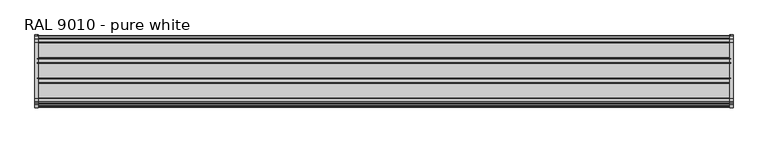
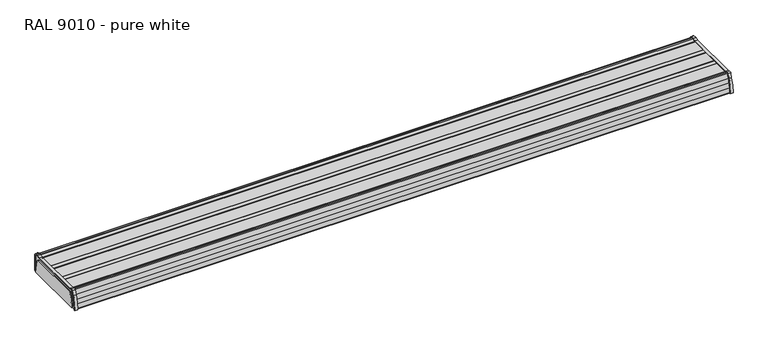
"""IFC4 building model written with IfcOpenShell, lengths in millimetres: proxy geometry, Electrical_Installations_Hager_GBD-Curved-Lid-End-Cap : RAL 9010 - pure white."""

from ifc_helpers import new_model, si_unit, point, frame, frame_2d, origin, place, context, project, spatial, polyline, circle_curve, trimmed, segment, composite_curve, outline, extrude, source, transform, mapped, element, save
from ifc_brep_helpers import plane_surface, cylinder_surface, revolved_surface, advanced_brep


def ral_9010_pure_white_7b29b7ac(model_context):
    return source(origin(), model_context, "Body", "SolidModel", [
        extrude(outline(composite_curve([segment(trimmed(circle_curve(frame_2d((-84.5513084, -40.9214047)), 185.0233507), [point((95.9838422, -0.4158535))], [point((99.9475664, -27.0))], False, "CARTESIAN"), True, "CONTINUOUS"), segment(polyline([(99.9475664, -27.0), (-90.1038164, -27.0)]), True, "CONTINUOUS"), segment(trimmed(circle_curve(frame_2d((94.3950584, -40.9214047)), 185.0233507), [point((-90.1038164, -27.0))], [point((-86.1400922, -0.4158535))], False, "CARTESIAN"), True, "CONTINUOUS"), segment(polyline([(-86.1400922, -0.4158535), (-82.3961568, 14.054883)]), True, "CONTINUOUS"), segment(trimmed(circle_curve(frame_2d((-76.8046004, 12.6082098)), 5.7756703), [point((-82.3961568, 14.054883))], [point((-76.8046004, 18.38388))], False, "CARTESIAN"), True, "CONTINUOUS"), segment(polyline([(-76.8046004, 18.38388), (87.0189184, 18.38388)]), True, "CONTINUOUS"), segment(trimmed(circle_curve(frame_2d((87.0189184, 13.0868546)), 5.2970254), [point((87.0189184, 18.38388))], [point((92.147088, 14.4136382))], False, "CARTESIAN"), True, "CONTINUOUS"), segment(polyline([(92.147088, 14.4136382), (95.9838422, -0.4158535)]), True, "CONTINUOUS")], self_intersect=False)), frame((2004.6847927, 0.0, 0.0), z_axis=(1.0, 0.0, 0.0), x_axis=(0.0, 1.0, 0.0)), (0.0, 0.0, 1.0), 1.8152073),
        extrude(outline(composite_curve([segment(trimmed(circle_curve(frame_2d((87.0189184, 13.0868546)), 5.2970254), [point((87.0189184, 18.38388))], [point((92.147088, 14.4136382))], False, "CARTESIAN"), True, "CONTINUOUS"), segment(polyline([(92.147088, 14.4136382), (95.9838422, -0.4158535)]), True, "CONTINUOUS"), segment(trimmed(circle_curve(frame_2d((-84.5513084, -40.9214047)), 185.0233507), [point((95.9838422, -0.4158535))], [point((99.9475664, -27.0))], False, "CARTESIAN"), True, "CONTINUOUS"), segment(polyline([(99.9475664, -27.0), (-90.1038164, -27.0)]), True, "CONTINUOUS"), segment(trimmed(circle_curve(frame_2d((94.3950584, -40.9214047)), 185.0233507), [point((-90.1038164, -27.0))], [point((-86.1400922, -0.4158535))], False, "CARTESIAN"), True, "CONTINUOUS"), segment(polyline([(-86.1400922, -0.4158535), (-82.3961568, 14.054883)]), True, "CONTINUOUS"), segment(trimmed(circle_curve(frame_2d((-76.8046004, 12.6082098)), 5.7756703), [point((-82.3961568, 14.054883))], [point((-76.8046004, 18.38388))], False, "CARTESIAN"), True, "CONTINUOUS"), segment(polyline([(-76.8046004, 18.38388), (87.0189184, 18.38388)]), True, "CONTINUOUS")], self_intersect=False)), frame((-7.3251424, 0.0, 0.0), z_axis=(1.0, 0.0, 0.0), x_axis=(0.0, 1.0, 0.0)), (0.0, 0.0, 1.0), 2.6403497),
        advanced_brep(
        [(1997.484375, 83.0350578, 27.6494897), (1997.484375, -79.0225578, 27.6494897), (1997.484375, -87.882268, 30.5281841), (1997.484375, -91.1423261, 28.9242145), (1997.484375, -95.9399647, 15.4546249), (1997.484375, -104.4432035, -26.9999996), (1997.484375, -105.3874885, -26.9999996), (1997.484375, -96.8867945, 15.6161934), (1997.484375, -92.1302502, 29.3055093), (1997.484375, -87.5615267, 31.5285408), (1997.484375, -78.5525409, 28.6013439), (1997.484375, 82.5650409, 28.6013439), (1997.484375, 92.3953801, 31.7954147), (1997.484375, 102.0195586, 30.5399822), (1997.484375, 105.25625, 26.8536566), (1997.484375, 105.25625, -21.9876583), (1997.484375, 100.2439083, -27.0), (1997.484375, 99.0404611, -27.0), (1997.484375, 104.2057397, -21.8347213), (1997.484375, 104.2057397, 26.8285849), (1997.484375, 101.8739843, 29.4872382), (1997.484375, 92.4907662, 30.7218356), (2006.484375, 83.0350578, 27.6494897), (2006.484375, 92.4907662, 30.7218356), (2006.484375, 101.8739843, 29.4872382), (2006.484375, 104.2057397, 26.8285849), (2006.484375, 104.2057397, -21.8347213), (2006.484375, 99.0404611, -27.0), (2006.484375, 100.2439083, -27.0), (2006.484375, 105.25625, -21.9876583), (2006.484375, 105.25625, 26.8536566), (2006.484375, 102.0195586, 30.5399822), (2006.484375, 92.3953801, 31.7954147), (2006.484375, 82.5650409, 28.6013439), (2006.484375, -78.5525409, 28.6013439), (2006.484375, -87.5615267, 31.5285408), (2006.484375, -92.1302502, 29.3055093), (2006.484375, -96.8867945, 15.6161934), (2006.484375, -105.3874885, -26.9999996), (2006.484375, -104.4432035, -26.9999996), (2006.484375, -95.9399647, 15.4546249), (2006.484375, -91.1423261, 28.9242145), (2006.484375, -87.882268, 30.5281841), (2006.484375, -79.0225578, 27.6494897), (2000.0, 83.0350578, 27.6494897), (2000.0, -79.0225578, 27.6494897), (2004.6847927, -79.0225578, 27.6494897), (2004.6847927, 83.0350578, 27.6494897), (2000.0, -87.882268, 30.5281841), (2004.6847927, -87.882268, 30.5281841), (2000.0, -91.1423261, 28.9242145), (2004.6847927, -91.1423261, 28.9242145), (2000.0, -95.9399647, 15.4546249), (2004.6847927, -95.9399647, 15.4546249), (2000.0, -104.4432035, -26.9999996), (2004.6847927, -104.4432035, -26.9999996), (2000.0, 99.0404611, -26.9999996), (2004.6847927, 99.0404611, -26.9999996), (2004.6847927, -96.8867945, 15.6161934), (2000.0, -96.8867945, 15.6161934), (2004.6847927, -92.1302502, 29.3055093), (2000.0, -92.1302502, 29.3055093), (2004.6847927, -87.5615267, 31.5285408), (2000.0, -87.5615267, 31.5285408), (2004.6847927, -78.5525409, 28.6013439), (2000.0, -78.5525409, 28.6013439), (2004.6847927, 82.5650409, 28.6013439), (2000.0, 82.5650409, 28.6013439), (2004.6847927, 92.3953801, 31.7954147), (2000.0, 92.3953801, 31.7954147), (2004.6847927, 102.0195586, 30.5399822), (2000.0, 102.0195586, 30.5399822), (2004.6847927, 105.25625, 26.8536566), (2000.0, 105.25625, 26.8536566), (2004.6847927, 105.25625, -21.9876583), (2000.0, 105.25625, -21.9876583), (2000.0, 104.2057397, -21.8347213), (2004.6847927, 104.2057397, -21.8347213), (2000.0, 104.2057397, 26.8285849), (2004.6847927, 104.2057397, 26.8285849), (2000.0, 101.8739843, 29.4872382), (2004.6847927, 101.8739843, 29.4872382), (2000.0, 92.4907662, 30.7218356), (2004.6847927, 92.4907662, 30.7218356)],
        [
            (0, 1),
            (1, 2),
            (2, 3, circle_curve(frame((1997.484375, -88.6875255, 28.0498563), z_axis=(1.0, 0.0, 0.0), x_axis=(0.0, 1.0, 0.0)), 2.6058681)),
            (3, 4),
            (4, 5, circle_curve(frame((1997.484375, 90.4782207, -43.961952), z_axis=(1.0, 0.0, 0.0), x_axis=(0.0, 1.0, 0.0)), 195.6580422)),
            (5, 6),
            (6, 7, circle_curve(frame((1997.484375, 74.0945419, -40.6455395), z_axis=(-1.0, 0.0, 0.0), x_axis=(0.0, 1.0, 0.0)), 180.0)),
            (7, 8, circle_curve(frame((1997.484375, 319.7427171, -121.4765373), z_axis=(-1.0, 0.0, 0.0), x_axis=(0.0, 1.0, 0.0)), 438.6052516)),
            (8, 9, circle_curve(frame((1997.484375, -88.6927251, 28.0470701), z_axis=(-1.0, 0.0, 0.0), x_axis=(0.0, 1.0, 0.0)), 3.6606349)),
            (9, 10),
            (10, 11),
            (11, 12),
            (12, 13),
            (13, 14, circle_curve(frame((1997.484375, 101.5386933, 26.8536566), z_axis=(-1.0, 0.0, 0.0), x_axis=(0.0, 1.0, 0.0)), 3.7175567)),
            (14, 15),
            (15, 16),
            (16, 17),
            (17, 18),
            (18, 19),
            (19, 20, circle_curve(frame((1997.484375, 101.5241719, 26.8285849), z_axis=(1.0, 0.0, 0.0), x_axis=(0.0, 1.0, 0.0)), 2.6815679)),
            (20, 21),
            (21, 0),
            (22, 23),
            (23, 24),
            (24, 25, circle_curve(frame((2006.484375, 101.5241719, 26.8285849), z_axis=(-1.0, 0.0, 0.0), x_axis=(0.0, 1.0, 0.0)), 2.6815679)),
            (25, 26),
            (26, 27),
            (27, 28),
            (28, 29),
            (29, 30),
            (30, 31, circle_curve(frame((2006.484375, 101.5386933, 26.8536566), z_axis=(1.0, 0.0, 0.0), x_axis=(0.0, 1.0, 0.0)), 3.7175567)),
            (31, 32),
            (32, 33),
            (33, 34),
            (34, 35),
            (35, 36, circle_curve(frame((2006.484375, -88.6927251, 28.0470701), z_axis=(1.0, 0.0, 0.0), x_axis=(0.0, 1.0, 0.0)), 3.6606349)),
            (36, 37, circle_curve(frame((2006.484375, 319.7427171, -121.4765373), z_axis=(1.0, 0.0, 0.0), x_axis=(0.0, 1.0, 0.0)), 438.6052516)),
            (37, 38, circle_curve(frame((2006.484375, 74.0945419, -40.6455395), z_axis=(1.0, 0.0, 0.0), x_axis=(0.0, 1.0, 0.0)), 180.0)),
            (38, 39),
            (39, 40, circle_curve(frame((2006.484375, 90.4782207, -43.961952), z_axis=(-1.0, 0.0, 0.0), x_axis=(0.0, 1.0, 0.0)), 195.6580422)),
            (40, 41),
            (41, 42, circle_curve(frame((2006.484375, -88.6875255, 28.0498563), z_axis=(-1.0, 0.0, 0.0), x_axis=(0.0, 1.0, 0.0)), 2.6058681)),
            (42, 43),
            (43, 22),
            (0, 44),
            (44, 45),
            (45, 1),
            (43, 46),
            (46, 47),
            (47, 22),
            (45, 48),
            (48, 2),
            (42, 49),
            (49, 46),
            (48, 50, circle_curve(frame((2000.0, -88.6875255, 28.0498563), z_axis=(1.0, 0.0, 0.0), x_axis=(0.0, 1.0, 0.0)), 2.6058681)),
            (50, 3),
            (41, 51),
            (51, 49, circle_curve(frame((2004.6847927, -88.6875255, 28.0498563), z_axis=(-1.0, 0.0, 0.0), x_axis=(0.0, 1.0, 0.0)), 2.6058681)),
            (50, 52),
            (52, 4),
            (40, 53),
            (53, 51),
            (52, 54, circle_curve(frame((2000.0, 90.4782207, -43.961952), z_axis=(1.0, 0.0, 0.0), x_axis=(0.0, 1.0, 0.0)), 195.6580422)),
            (54, 5),
            (39, 55),
            (55, 53, circle_curve(frame((2004.6847927, 90.4782207, -43.961952), z_axis=(-1.0, 0.0, 0.0), x_axis=(0.0, 1.0, 0.0)), 195.6580422)),
            (54, 56),
            (56, 17),
            (16, 28),
            (27, 57),
            (57, 55),
            (38, 6),
            (37, 58),
            (58, 59),
            (59, 7),
            (36, 60),
            (60, 61),
            (61, 8),
            (35, 62),
            (62, 63),
            (63, 9),
            (34, 64),
            (64, 65),
            (65, 10),
            (33, 66),
            (66, 67),
            (67, 11),
            (32, 68),
            (68, 69),
            (69, 12),
            (31, 70),
            (70, 71),
            (71, 13),
            (30, 72),
            (72, 73),
            (73, 14),
            (29, 74),
            (74, 75),
            (75, 15),
            (56, 76),
            (76, 18),
            (26, 77),
            (77, 57),
            (76, 78),
            (78, 19),
            (25, 79),
            (79, 77),
            (78, 80, circle_curve(frame((2000.0, 101.5241719, 26.8285849), z_axis=(1.0, 0.0, 0.0), x_axis=(0.0, 1.0, 0.0)), 2.6815679)),
            (80, 20),
            (24, 81),
            (81, 79, circle_curve(frame((2004.6847927, 101.5241719, 26.8285849), z_axis=(-1.0, 0.0, 0.0), x_axis=(0.0, 1.0, 0.0)), 2.6815679)),
            (80, 82),
            (82, 21),
            (23, 83),
            (83, 81),
            (82, 44),
            (47, 83),
        ],
        [
            plane_surface(frame((1997.484375, 0.0, 0.0), z_axis=(-1.0, 0.0, 0.0), x_axis=(0.0, 0.0, 1.0))),
            plane_surface(frame((2006.484375, 0.0, 0.0), z_axis=(1.0, 0.0, 0.0), x_axis=(0.0, 0.0, 1.0))),
            plane_surface(frame((1997.484375, 83.0350578, 27.6494897), z_axis=(0.0, 0.0, -1.0), x_axis=(1.0, 0.0, 0.0))),
            plane_surface(frame((1997.484375, -79.0225578, 27.6494897), z_axis=(0.0, -0.30901699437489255, -0.9510565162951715), x_axis=(1.0, 0.0, 0.0))),
            revolved_surface(polyline([(2000.0, -86.08165740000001, 28.0498563), (1997.484375, -86.08165740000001, 28.0498563)]), (1997.484375, -88.6875255, 28.0498563), (1.0, 0.0, 0.0)),
            revolved_surface(polyline([(2006.484375, -86.08165740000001, 28.0498563), (2004.6847927, -86.08165740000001, 28.0498563)]), (1997.484375, -88.6875255, 28.0498563), (1.0, 0.0, 0.0)),
            plane_surface(frame((1997.484375, -91.1423261, 28.9242145), z_axis=(0.0, 0.9420279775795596, -0.3355343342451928), x_axis=(1.0, 0.0, 0.0))),
            revolved_surface(polyline([(2000.0, 286.1362629, -43.961952), (1997.484375, 286.1362629, -43.961952)]), (1997.484375, 90.4782207, -43.961952), (1.0, 0.0, 0.0)),
            revolved_surface(polyline([(2006.484375, 286.1362629, -43.961952), (2004.6847927, 286.1362629, -43.961952)]), (1997.484375, 90.4782207, -43.961952), (1.0, 0.0, 0.0)),
            plane_surface(frame((1997.484375, -104.4432035, -26.9999996), z_axis=(0.0, 0.0, -1.0), x_axis=(1.0, 0.0, 0.0))),
            cylinder_surface(frame((1997.484375, 74.0945419, -40.6455395), z_axis=(-1.0, 0.0, 0.0), x_axis=(0.0, 1.0, 0.0)), 180.0),
            cylinder_surface(frame((1997.484375, 319.7427171, -121.4765373), z_axis=(-1.0, 0.0, 0.0), x_axis=(0.0, 1.0, 0.0)), 438.6052516),
            cylinder_surface(frame((1997.484375, -88.6927251, 28.0470701), z_axis=(-1.0, 0.0, 0.0), x_axis=(0.0, 1.0, 0.0)), 3.6606349),
            plane_surface(frame((1997.484375, -87.5615267, 31.5285408), z_axis=(0.0, 0.3090169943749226, 0.9510565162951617), x_axis=(1.0, 0.0, 0.0))),
            plane_surface(frame((1997.484375, -78.5525409, 28.6013439), z_axis=(0.0, 0.0, 1.0), x_axis=(1.0, 0.0, 0.0))),
            plane_surface(frame((1997.484375, 82.5650409, 28.6013439), z_axis=(0.0, -0.30901699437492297, 0.9510565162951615), x_axis=(1.0, 0.0, 0.0))),
            plane_surface(frame((1997.484375, 92.3953801, 31.7954147), z_axis=(0.0, 0.12934980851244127, 0.9915990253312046), x_axis=(1.0, 0.0, 0.0))),
            cylinder_surface(frame((1997.484375, 101.5386933, 26.8536566), z_axis=(-1.0, 0.0, 0.0), x_axis=(0.0, 1.0, 0.0)), 3.7175567),
            plane_surface(frame((1997.484375, 105.25625, 26.8536566), z_axis=(0.0, 1.0, 0.0), x_axis=(1.0, 0.0, 0.0))),
            plane_surface(frame((1997.484375, 105.25625, -21.9876583), z_axis=(0.0, 0.707106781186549, -0.707106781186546), x_axis=(1.0, 0.0, 0.0))),
            plane_surface(frame((1997.484375, 99.0404611, -27.0), z_axis=(0.0, -0.7071067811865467, 0.7071067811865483), x_axis=(1.0, 0.0, 0.0))),
            plane_surface(frame((1997.484375, 104.2057397, -21.8347213), z_axis=(0.0, -1.0, 0.0), x_axis=(1.0, 0.0, 0.0))),
            revolved_surface(polyline([(2000.0, 104.2057398, 26.8285849), (1997.484375, 104.2057398, 26.8285849)]), (1997.484375, 101.5241719, 26.8285849), (1.0, 0.0, 0.0)),
            revolved_surface(polyline([(2006.484375, 104.2057398, 26.8285849), (2004.6847927, 104.2057398, 26.8285849)]), (1997.484375, 101.5241719, 26.8285849), (1.0, 0.0, 0.0)),
            plane_surface(frame((1997.484375, 101.8739843, 29.4872382), z_axis=(0.0, -0.13045072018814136, -0.9914547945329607), x_axis=(1.0, 0.0, 0.0))),
            plane_surface(frame((1997.484375, 92.4907662, 30.7218356), z_axis=(0.0, 0.3090169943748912, -0.9510565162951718), x_axis=(1.0, 0.0, 0.0))),
            plane_surface(frame((2000.0, 0.0, 0.0), z_axis=(-1.0, 0.0, 0.0), x_axis=(0.0, 0.0, 1.0))),
            plane_surface(frame((2004.6847927, 0.0, 0.0), z_axis=(1.0, 0.0, 0.0), x_axis=(0.0, 0.0, 1.0))),
        ],
        [
            (0, [[1, 2, 3, 4, 5, 6, 7, 8, 9, 10, 11, 12, 13, 14, 15, 16, 17, 18, 19, 20, 21, 22]]),
            (1, [[23, 24, 25, 26, 27, 28, 29, 30, 31, 32, 33, 34, 35, 36, 37, 38, 39, 40, 41, 42, 43, 44]]),
            (2, [[-1, 45, 46, 47]]),
            (2, [[-44, 48, 49, 50]]),
            (3, [[-2, -47, 51, 52]]),
            (3, [[-43, 53, 54, -48]]),
            (4, [[-3, -52, 55, 56]]),
            (5, [[-42, 57, 58, -53]]),
            (6, [[-4, -56, 59, 60]]),
            (6, [[-41, 61, 62, -57]]),
            (7, [[-5, -60, 63, 64]]),
            (8, [[-40, 65, 66, -61]]),
            (9, [[-6, -64, 67, 68, -17, 69, -28, 70, 71, -65, -39, 72]]),
            (10, [[-7, -72, -38, 73, 74, 75]]),
            (11, [[-8, -75, -74, -73, -37, 76, 77, 78]]),
            (12, [[-9, -78, -77, -76, -36, 79, 80, 81]]),
            (13, [[-10, -81, -80, -79, -35, 82, 83, 84]]),
            (14, [[-11, -84, -83, -82, -34, 85, 86, 87]]),
            (15, [[-12, -87, -86, -85, -33, 88, 89, 90]]),
            (16, [[-13, -90, -89, -88, -32, 91, 92, 93]]),
            (17, [[-14, -93, -92, -91, -31, 94, 95, 96]]),
            (18, [[-15, -96, -95, -94, -30, 97, 98, 99]]),
            (19, [[-69, -16, -99, -98, -97, -29]]),
            (20, [[-18, -68, 100, 101]]),
            (20, [[-27, 102, 103, -70]]),
            (21, [[-19, -101, 104, 105]]),
            (21, [[-26, 106, 107, -102]]),
            (22, [[-20, -105, 108, 109]]),
            (23, [[-25, 110, 111, -106]]),
            (24, [[-21, -109, 112, 113]]),
            (24, [[-24, 114, 115, -110]]),
            (25, [[-22, -113, 116, -45]]),
            (25, [[-23, -50, 117, -114]]),
            (26, [[-67, -63, -59, -55, -51, -46, -116, -112, -108, -104, -100]]),
            (27, [[-71, -103, -107, -111, -115, -117, -49, -54, -58, -62, -66]]),
        ],
    ),
        advanced_brep(
        [(-7.3251424, 83.0350578, 27.6494897), (-7.3251424, -79.0225578, 27.6494897), (-7.3251424, -87.882268, 30.5281841), (-7.3251424, -91.1423261, 28.9242145), (-7.3251424, -95.9399647, 15.4546249), (-7.3251424, -104.4432035, -26.9999996), (-7.3251424, -105.3874885, -26.9999996), (-7.3251424, -96.8867945, 15.6161934), (-7.3251424, -92.1302502, 29.3055093), (-7.3251424, -87.5615267, 31.5285408), (-7.3251424, -78.5525409, 28.6013439), (-7.3251424, 82.5650409, 28.6013439), (-7.3251424, 92.3953801, 31.7954147), (-7.3251424, 102.0195586, 30.5399822), (-7.3251424, 105.25625, 26.8536566), (-7.3251424, 105.25625, -21.9876583), (-7.3251424, 100.2439083, -27.0), (-7.3251424, 99.0404611, -27.0), (-7.3251424, 104.2057397, -21.8347213), (-7.3251424, 104.2057397, 26.8285849), (-7.3251424, 101.8739843, 29.4872382), (-7.3251424, 92.4907662, 30.7218356), (1.6748576, 83.0350578, 27.6494897), (1.6748576, 92.4907662, 30.7218356), (1.6748576, 101.8739843, 29.4872382), (1.6748576, 104.2057397, 26.8285849), (1.6748576, 104.2057397, -21.8347213), (1.6748576, 99.0404611, -27.0), (1.6748576, 100.2439083, -27.0), (1.6748576, 105.25625, -21.9876583), (1.6748576, 105.25625, 26.8536566), (1.6748576, 102.0195586, 30.5399822), (1.6748576, 92.3953801, 31.7954147), (1.6748576, 82.5650409, 28.6013439), (1.6748576, -78.5525409, 28.6013439), (1.6748576, -87.5615267, 31.5285408), (1.6748576, -92.1302502, 29.3055093), (1.6748576, -96.8867945, 15.6161934), (1.6748576, -105.3874885, -26.9999996), (1.6748576, -104.4432035, -26.9999996), (1.6748576, -95.9399647, 15.4546249), (1.6748576, -91.1423261, 28.9242145), (1.6748576, -87.882268, 30.5281841), (1.6748576, -79.0225578, 27.6494897), (-4.6847927, 83.0350578, 27.6494897), (-4.6847927, -79.0225578, 27.6494897), (0.0, -79.0225578, 27.6494897), (0.0, 83.0350578, 27.6494897), (-4.6847927, -87.882268, 30.5281841), (0.0, -87.882268, 30.5281841), (-4.6847927, -91.1423261, 28.9242145), (0.0, -91.1423261, 28.9242145), (-4.6847927, -95.9399647, 15.4546249), (0.0, -95.9399647, 15.4546249), (-4.6847927, -104.4432035, -26.9999996), (0.0, -104.4432035, -26.9999996), (-4.6847927, 99.0404611, -26.9999996), (0.0, 99.0404611, -26.9999996), (0.0, -96.8867945, 15.6161934), (-4.6847927, -96.8867945, 15.6161934), (0.0, -92.1302502, 29.3055093), (-4.6847927, -92.1302502, 29.3055093), (0.0, -87.5615267, 31.5285408), (-4.6847927, -87.5615267, 31.5285408), (0.0, -78.5525409, 28.6013439), (-4.6847927, -78.5525409, 28.6013439), (0.0, 82.5650409, 28.6013439), (-4.6847927, 82.5650409, 28.6013439), (0.0, 92.3953801, 31.7954147), (-4.6847927, 92.3953801, 31.7954147), (0.0, 102.0195586, 30.5399822), (-4.6847927, 102.0195586, 30.5399822), (0.0, 105.25625, 26.8536566), (-4.6847927, 105.25625, 26.8536566), (0.0, 105.25625, -21.9876583), (-4.6847927, 105.25625, -21.9876583), (-4.6847927, 104.2057397, -21.8347213), (0.0, 104.2057397, -21.8347213), (-4.6847927, 104.2057397, 26.8285849), (0.0, 104.2057397, 26.8285849), (-4.6847927, 101.8739843, 29.4872382), (0.0, 101.8739843, 29.4872382), (-4.6847927, 92.4907662, 30.7218356), (0.0, 92.4907662, 30.7218356)],
        [
            (0, 1),
            (1, 2),
            (2, 3, circle_curve(frame((-7.3251424, -88.6875255, 28.0498563), z_axis=(1.0, 0.0, 0.0), x_axis=(0.0, 1.0, 0.0)), 2.6058681)),
            (3, 4),
            (4, 5, circle_curve(frame((-7.3251424, 90.4782207, -43.961952), z_axis=(1.0, 0.0, 0.0), x_axis=(0.0, 1.0, 0.0)), 195.6580422)),
            (5, 6),
            (6, 7, circle_curve(frame((-7.3251424, 74.0945419, -40.6455395), z_axis=(-1.0, 0.0, 0.0), x_axis=(0.0, 1.0, 0.0)), 180.0)),
            (7, 8, circle_curve(frame((-7.3251424, 319.7427171, -121.4765373), z_axis=(-1.0, 0.0, 0.0), x_axis=(0.0, 1.0, 0.0)), 438.6052516)),
            (8, 9, circle_curve(frame((-7.3251424, -88.6927251, 28.0470701), z_axis=(-1.0, 0.0, 0.0), x_axis=(0.0, 1.0, 0.0)), 3.6606349)),
            (9, 10),
            (10, 11),
            (11, 12),
            (12, 13),
            (13, 14, circle_curve(frame((-7.3251424, 101.5386933, 26.8536566), z_axis=(-1.0, 0.0, 0.0), x_axis=(0.0, 1.0, 0.0)), 3.7175567)),
            (14, 15),
            (15, 16),
            (16, 17),
            (17, 18),
            (18, 19),
            (19, 20, circle_curve(frame((-7.3251424, 101.5241719, 26.8285849), z_axis=(1.0, 0.0, 0.0), x_axis=(0.0, 1.0, 0.0)), 2.6815679)),
            (20, 21),
            (21, 0),
            (22, 23),
            (23, 24),
            (24, 25, circle_curve(frame((1.6748576, 101.5241719, 26.8285849), z_axis=(-1.0, 0.0, 0.0), x_axis=(0.0, 1.0, 0.0)), 2.6815679)),
            (25, 26),
            (26, 27),
            (27, 28),
            (28, 29),
            (29, 30),
            (30, 31, circle_curve(frame((1.6748576, 101.5386933, 26.8536566), z_axis=(1.0, 0.0, 0.0), x_axis=(0.0, 1.0, 0.0)), 3.7175567)),
            (31, 32),
            (32, 33),
            (33, 34),
            (34, 35),
            (35, 36, circle_curve(frame((1.6748576, -88.6927251, 28.0470701), z_axis=(1.0, 0.0, 0.0), x_axis=(0.0, 1.0, 0.0)), 3.6606349)),
            (36, 37, circle_curve(frame((1.6748576, 319.7427171, -121.4765373), z_axis=(1.0, 0.0, 0.0), x_axis=(0.0, 1.0, 0.0)), 438.6052516)),
            (37, 38, circle_curve(frame((1.6748576, 74.0945419, -40.6455395), z_axis=(1.0, 0.0, 0.0), x_axis=(0.0, 1.0, 0.0)), 180.0)),
            (38, 39),
            (39, 40, circle_curve(frame((1.6748576, 90.4782207, -43.961952), z_axis=(-1.0, 0.0, 0.0), x_axis=(0.0, 1.0, 0.0)), 195.6580422)),
            (40, 41),
            (41, 42, circle_curve(frame((1.6748576, -88.6875255, 28.0498563), z_axis=(-1.0, 0.0, 0.0), x_axis=(0.0, 1.0, 0.0)), 2.6058681)),
            (42, 43),
            (43, 22),
            (0, 44),
            (44, 45),
            (45, 1),
            (43, 46),
            (46, 47),
            (47, 22),
            (45, 48),
            (48, 2),
            (42, 49),
            (49, 46),
            (48, 50, circle_curve(frame((-4.6847927, -88.6875255, 28.0498563), z_axis=(1.0, 0.0, 0.0), x_axis=(0.0, 1.0, 0.0)), 2.6058681)),
            (50, 3),
            (41, 51),
            (51, 49, circle_curve(frame((0.0, -88.6875255, 28.0498563), z_axis=(-1.0, 0.0, 0.0), x_axis=(0.0, 1.0, 0.0)), 2.6058681)),
            (50, 52),
            (52, 4),
            (40, 53),
            (53, 51),
            (52, 54, circle_curve(frame((-4.6847927, 90.4782207, -43.961952), z_axis=(1.0, 0.0, 0.0), x_axis=(0.0, 1.0, 0.0)), 195.6580422)),
            (54, 5),
            (39, 55),
            (55, 53, circle_curve(frame((0.0, 90.4782207, -43.961952), z_axis=(-1.0, 0.0, 0.0), x_axis=(0.0, 1.0, 0.0)), 195.6580422)),
            (54, 56),
            (56, 17),
            (16, 28),
            (27, 57),
            (57, 55),
            (38, 6),
            (37, 58),
            (58, 59),
            (59, 7),
            (36, 60),
            (60, 61),
            (61, 8),
            (35, 62),
            (62, 63),
            (63, 9),
            (34, 64),
            (64, 65),
            (65, 10),
            (33, 66),
            (66, 67),
            (67, 11),
            (32, 68),
            (68, 69),
            (69, 12),
            (31, 70),
            (70, 71),
            (71, 13),
            (30, 72),
            (72, 73),
            (73, 14),
            (29, 74),
            (74, 75),
            (75, 15),
            (56, 76),
            (76, 18),
            (26, 77),
            (77, 57),
            (76, 78),
            (78, 19),
            (25, 79),
            (79, 77),
            (78, 80, circle_curve(frame((-4.6847927, 101.5241719, 26.8285849), z_axis=(1.0, 0.0, 0.0), x_axis=(0.0, 1.0, 0.0)), 2.6815679)),
            (80, 20),
            (24, 81),
            (81, 79, circle_curve(frame((0.0, 101.5241719, 26.8285849), z_axis=(-1.0, 0.0, 0.0), x_axis=(0.0, 1.0, 0.0)), 2.6815679)),
            (80, 82),
            (82, 21),
            (23, 83),
            (83, 81),
            (82, 44),
            (47, 83),
        ],
        [
            plane_surface(frame((-7.3251424, 0.0, 0.0), z_axis=(-1.0, 0.0, 0.0), x_axis=(0.0, 0.0, 1.0))),
            plane_surface(frame((1.6748576, 0.0, 0.0), z_axis=(1.0, 0.0, 0.0), x_axis=(0.0, 0.0, 1.0))),
            plane_surface(frame((-7.3251424, 83.0350578, 27.6494897), z_axis=(0.0, 0.0, -1.0), x_axis=(1.0, 0.0, 0.0))),
            plane_surface(frame((-7.3251424, -79.0225578, 27.6494897), z_axis=(0.0, -0.3090169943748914, -0.9510565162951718), x_axis=(1.0, 0.0, 0.0))),
            revolved_surface(polyline([(-4.6847927, -86.08165740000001, 28.0498563), (-7.3251424, -86.08165740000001, 28.0498563)]), (-7.3251424, -88.6875255, 28.0498563), (1.0, 0.0, 0.0)),
            revolved_surface(polyline([(1.6748576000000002, -86.08165740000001, 28.0498563), (0.0, -86.08165740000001, 28.0498563)]), (-7.3251424, -88.6875255, 28.0498563), (1.0, 0.0, 0.0)),
            plane_surface(frame((-7.3251424, -91.1423261, 28.9242145), z_axis=(0.0, 0.9420279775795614, -0.335534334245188), x_axis=(1.0, 0.0, 0.0))),
            revolved_surface(polyline([(-4.6847927, 286.1362629, -43.961952), (-7.3251424, 286.1362629, -43.961952)]), (-7.3251424, 90.4782207, -43.961952), (1.0, 0.0, 0.0)),
            revolved_surface(polyline([(1.6748576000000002, 286.1362629, -43.961952), (0.0, 286.1362629, -43.961952)]), (-7.3251424, 90.4782207, -43.961952), (1.0, 0.0, 0.0)),
            plane_surface(frame((-7.3251424, -104.4432035, -26.9999996), z_axis=(0.0, 0.0, -1.0), x_axis=(1.0, 0.0, 0.0))),
            cylinder_surface(frame((-7.3251424, 74.0945419, -40.6455395), z_axis=(-1.0, 0.0, 0.0), x_axis=(0.0, 1.0, 0.0)), 180.0),
            cylinder_surface(frame((-7.3251424, 319.7427171, -121.4765373), z_axis=(-1.0, 0.0, 0.0), x_axis=(0.0, 1.0, 0.0)), 438.6052516),
            cylinder_surface(frame((-7.3251424, -88.6927251, 28.0470701), z_axis=(-1.0, 0.0, 0.0), x_axis=(0.0, 1.0, 0.0)), 3.6606349),
            plane_surface(frame((-7.3251424, -87.5615267, 31.5285408), z_axis=(0.0, 0.30901699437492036, 0.9510565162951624), x_axis=(1.0, 0.0, 0.0))),
            plane_surface(frame((-7.3251424, -78.5525409, 28.6013439), z_axis=(0.0, 0.0, 1.0), x_axis=(1.0, 0.0, 0.0))),
            plane_surface(frame((-7.3251424, 82.5650409, 28.6013439), z_axis=(0.0, -0.3090169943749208, 0.9510565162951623), x_axis=(1.0, 0.0, 0.0))),
            plane_surface(frame((-7.3251424, 92.3953801, 31.7954147), z_axis=(0.0, 0.1293498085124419, 0.9915990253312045), x_axis=(1.0, 0.0, 0.0))),
            cylinder_surface(frame((-7.3251424, 101.5386933, 26.8536566), z_axis=(-1.0, 0.0, 0.0), x_axis=(0.0, 1.0, 0.0)), 3.7175567),
            plane_surface(frame((-7.3251424, 105.25625, 26.8536566), z_axis=(0.0, 1.0, 0.0), x_axis=(1.0, 0.0, 0.0))),
            plane_surface(frame((-7.3251424, 105.25625, -21.9876583), z_axis=(0.0, 0.70710678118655, -0.707106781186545), x_axis=(1.0, 0.0, 0.0))),
            plane_surface(frame((-7.3251424, 99.0404611, -27.0), z_axis=(0.0, -0.707106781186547, 0.7071067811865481), x_axis=(1.0, 0.0, 0.0))),
            plane_surface(frame((-7.3251424, 104.2057397, -21.8347213), z_axis=(0.0, -1.0, 0.0), x_axis=(1.0, 0.0, 0.0))),
            revolved_surface(polyline([(-4.6847927, 104.2057398, 26.8285849), (-7.3251424, 104.2057398, 26.8285849)]), (-7.3251424, 101.5241719, 26.8285849), (1.0, 0.0, 0.0)),
            revolved_surface(polyline([(1.6748576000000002, 104.2057398, 26.8285849), (0.0, 104.2057398, 26.8285849)]), (-7.3251424, 101.5241719, 26.8285849), (1.0, 0.0, 0.0)),
            plane_surface(frame((-7.3251424, 101.8739843, 29.4872382), z_axis=(0.0, -0.1304507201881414, -0.9914547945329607), x_axis=(1.0, 0.0, 0.0))),
            plane_surface(frame((-7.3251424, 92.4907662, 30.7218356), z_axis=(0.0, 0.30901699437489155, -0.9510565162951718), x_axis=(1.0, 0.0, 0.0))),
            plane_surface(frame((0.0, 0.0, 0.0), z_axis=(1.0, 0.0, 0.0), x_axis=(0.0, 0.0, 1.0))),
            plane_surface(frame((-4.6847927, 0.0, 0.0), z_axis=(-1.0, 0.0, 0.0), x_axis=(0.0, 0.0, 1.0))),
        ],
        [
            (0, [[1, 2, 3, 4, 5, 6, 7, 8, 9, 10, 11, 12, 13, 14, 15, 16, 17, 18, 19, 20, 21, 22]]),
            (1, [[23, 24, 25, 26, 27, 28, 29, 30, 31, 32, 33, 34, 35, 36, 37, 38, 39, 40, 41, 42, 43, 44]]),
            (2, [[-1, 45, 46, 47]]),
            (2, [[-44, 48, 49, 50]]),
            (3, [[-2, -47, 51, 52]]),
            (3, [[-43, 53, 54, -48]]),
            (4, [[-3, -52, 55, 56]]),
            (5, [[-42, 57, 58, -53]]),
            (6, [[-4, -56, 59, 60]]),
            (6, [[-41, 61, 62, -57]]),
            (7, [[-5, -60, 63, 64]]),
            (8, [[-40, 65, 66, -61]]),
            (9, [[-6, -64, 67, 68, -17, 69, -28, 70, 71, -65, -39, 72]]),
            (10, [[-7, -72, -38, 73, 74, 75]]),
            (11, [[-8, -75, -74, -73, -37, 76, 77, 78]]),
            (12, [[-9, -78, -77, -76, -36, 79, 80, 81]]),
            (13, [[-10, -81, -80, -79, -35, 82, 83, 84]]),
            (14, [[-11, -84, -83, -82, -34, 85, 86, 87]]),
            (15, [[-12, -87, -86, -85, -33, 88, 89, 90]]),
            (16, [[-13, -90, -89, -88, -32, 91, 92, 93]]),
            (17, [[-14, -93, -92, -91, -31, 94, 95, 96]]),
            (18, [[-15, -96, -95, -94, -30, 97, 98, 99]]),
            (19, [[-69, -16, -99, -98, -97, -29]]),
            (20, [[-18, -68, 100, 101]]),
            (20, [[-27, 102, 103, -70]]),
            (21, [[-19, -101, 104, 105]]),
            (21, [[-26, 106, 107, -102]]),
            (22, [[-20, -105, 108, 109]]),
            (23, [[-25, 110, 111, -106]]),
            (24, [[-21, -109, 112, 113]]),
            (24, [[-24, 114, 115, -110]]),
            (25, [[-22, -113, 116, -45]]),
            (25, [[-23, -50, 117, -114]]),
            (26, [[-71, -103, -107, -111, -115, -117, -49, -54, -58, -62, -66]]),
            (27, [[-67, -63, -59, -55, -51, -46, -116, -112, -108, -104, -100]]),
        ],
    ),
        extrude(outline(composite_curve([segment(polyline([(-101.4274294, -25.0), (-24.6193972, -25.0), (-24.6193972, -0.2727827), (-22.6193972, 22.5873219), (-22.6193972, 25.0), (-32.2193972, 25.0), (-32.2193972, 14.8125), (-36.9881472, 14.8125), (-36.9881472, 18.7484425), (-35.9881472, 18.7484425), (-35.9881472, 16.3), (-34.0193972, 16.3), (-34.0193972, 25.9976005)]), True, "CONTINUOUS"), segment(trimmed(circle_curve(frame_2d((-33.0169977, 25.9976005)), 1.0023995), [point((-34.0193972, 25.9976005))], [point((-33.0169977, 27.0))], False, "CARTESIAN"), True, "CONTINUOUS"), segment(polyline([(-33.0169977, 27.0), (-21.8999173, 27.0)]), True, "CONTINUOUS"), segment(trimmed(circle_curve(frame_2d((-21.8999173, 26.0319799)), 0.9680201), [point((-21.8999173, 27.0))], [point((-20.9318972, 26.0319799))], False, "CARTESIAN"), True, "CONTINUOUS"), segment(polyline([(-20.9318972, 26.0319799), (-20.9318972, 16.3), (-18.3381472, 16.3), (-18.3381472, 18.7426278), (-17.3381472, 18.7426278), (-17.3381472, 14.8125), (-21.2919663, 14.8125), (-22.6193972, -0.3601046), (-22.6193972, -25.0), (33.7806028, -25.0), (33.7806028, -0.4156584), (35.7931028, 22.5873219), (35.7931028, 25.0), (26.1931028, 25.0), (26.1931028, 14.8125), (21.5806028, 14.8125), (21.5806028, 18.7484425), (22.5806028, 18.7484425), (22.5806028, 16.3), (24.3931028, 16.3), (24.3931028, 25.9976005)]), True, "CONTINUOUS"), segment(trimmed(circle_curve(frame_2d((25.3955023, 25.9976005)), 1.0023995), [point((24.3931028, 25.9976005))], [point((25.3955023, 27.0))], False, "CARTESIAN"), True, "CONTINUOUS"), segment(polyline([(25.3955023, 27.0), (36.8250827, 27.0)]), True, "CONTINUOUS"), segment(trimmed(circle_curve(frame_2d((36.8250827, 26.0319799)), 0.9680201), [point((36.8250827, 27.0))], [point((37.7931028, 26.0319799))], False, "CARTESIAN"), True, "CONTINUOUS"), segment(polyline([(37.7931028, 26.0319799), (37.7931028, 16.3), (39.7227903, 16.3), (39.7227903, 18.7426278), (40.7227903, 18.7426278), (40.7227903, 14.8125), (37.1205337, 14.8125), (35.7806028, -0.5029803), (35.7806028, -25.0), (97.2279116, -25.0), (101.1806028, -21.0473088), (101.1806028, 26.5794362), (96.7157353, 27.2452109), (92.3805697, 27.7008552), (84.5806028, 25.1664923), (84.5806028, 14.8125), (80.0266965, 14.8125), (80.0266965, 18.7245073), (81.0266965, 18.7245073), (81.0266965, 16.3), (82.7806028, 16.3), (82.7806028, 26.230044)]), True, "CONTINUOUS"), segment(trimmed(circle_curve(frame_2d((83.8403563, 26.230044)), 1.0597535), [point((82.7806028, 26.230044))], [point((83.5128745, 27.2379295))], False, "CARTESIAN"), True, "CONTINUOUS"), segment(polyline([(83.5128745, 27.2379295), (92.1768744, 30.0530337), (96.2380738, 29.6261845), (101.8523132, 28.7890222)]), True, "CONTINUOUS"), segment(trimmed(circle_curve(frame_2d((101.5706227, 26.8999286)), 1.9099801), [point((101.8523132, 28.7890222))], [point((103.4806028, 26.8999286))], False, "CARTESIAN"), True, "CONTINUOUS"), segment(polyline([(103.4806028, 26.8999286), (103.4806028, -22.0), (98.4806028, -27.0), (-101.6896354, -27.0)]), True, "CONTINUOUS"), segment(trimmed(circle_curve(frame_2d((-101.6896354, -24.949094)), 2.050906), [point((-101.6896354, -27.0))], [point((-103.7205822, -24.6636631))], False, "CARTESIAN"), True, "CONTINUOUS"), segment(polyline([(-103.7205822, -24.6636631), (-101.81284, -11.0893724), (-98.9288881, 2.4785546), (-95.1194452, 15.7636608), (-90.3729824, 28.8044602)]), True, "CONTINUOUS"), segment(trimmed(circle_curve(frame_2d((-88.6278607, 28.1692878)), 1.8571197), [point((-90.3729824, 28.8044602))], [point((-88.0539791, 29.9355136))], False, "CARTESIAN"), True, "CONTINUOUS"), segment(polyline([(-88.0539791, 29.9355136), (-79.0193972, 27.0), (-79.0193972, 16.3), (-77.2068972, 16.3), (-77.2068972, 18.7513512), (-76.2068972, 18.7513512), (-76.2068972, 14.8125), (-80.8193972, 14.8125), (-80.8193972, 25.1664923), (-88.4057265, 27.6314401), (-93.0186265, 14.7879547), (-96.6984477, 1.9548933), (-99.4750065, -11.1077887), (-101.4274294, -25.0)]), True, "CONTINUOUS")], self_intersect=False)), frame((0.0, 0.0, 0.0), z_axis=(1.0, 0.0, 0.0), x_axis=(0.0, 1.0, 0.0)), (0.0, 0.0, 1.0), 2000.0),
        extrude(outline(composite_curve([segment(polyline([(81.2039308, 25.5816445), (39.3039308, 25.5816445), (39.3039308, 22.2816445), (42.7539308, 22.2816445), (42.7539308, 10.6816445), (44.6539308, 10.6816445), (44.6539308, 9.8816445), (41.7539308, 9.8816445), (41.7539308, 21.2816445), (39.0007893, 21.2816445), (39.0007893, 16.9733035), (37.9992433, 16.9733035), (37.9992433, 26.0900381)]), True, "CONTINUOUS"), segment(trimmed(circle_curve(frame_2d((38.9092052, 26.0900381)), 0.9099619), [point((37.9992433, 26.0900381))], [point((38.9092052, 27.0))], False, "CARTESIAN"), True, "CONTINUOUS"), segment(polyline([(38.9092052, 27.0), (81.3832504, 27.0)]), True, "CONTINUOUS"), segment(trimmed(circle_curve(frame_2d((81.3832504, 25.9918196)), 1.0081804), [point((81.3832504, 27.0))], [point((82.3914308, 25.9918196))], False, "CARTESIAN"), True, "CONTINUOUS"), segment(polyline([(82.3914308, 25.9918196), (82.3914308, 16.9733035), (81.5070722, 16.9733035), (81.5070722, 21.2816445), (78.7539308, 21.2816445), (78.7539308, 9.8816445), (75.8539308, 9.8816445), (75.8539308, 10.6816445), (77.7539308, 10.6816445), (77.7539308, 22.2816445), (81.2039308, 22.2816445), (81.2039308, 25.5816445)]), True, "CONTINUOUS")], self_intersect=False)), frame((0.0, 0.0, 0.0), z_axis=(1.0, 0.0, 0.0), x_axis=(0.0, 1.0, 0.0)), (0.0, 0.0, 1.0), 2000.0),
        extrude(outline(composite_curve([segment(polyline([(-35.4523192, 25.5816445), (-77.3523192, 25.5816445), (-77.3523192, 22.2816445), (-73.9023192, 22.2816445), (-73.9023192, 10.6816445), (-72.0023192, 10.6816445), (-72.0023192, 9.8816445), (-74.9023192, 9.8816445), (-74.9023192, 21.2816445), (-77.6554607, 21.2816445), (-77.6554607, 16.7402787), (-78.6570067, 16.7402787), (-78.6570067, 26.0900381)]), True, "CONTINUOUS"), segment(trimmed(circle_curve(frame_2d((-77.7470448, 26.0900381)), 0.9099619), [point((-78.6570067, 26.0900381))], [point((-77.7470448, 27.0))], False, "CARTESIAN"), True, "CONTINUOUS"), segment(polyline([(-77.7470448, 27.0), (-35.2729996, 27.0)]), True, "CONTINUOUS"), segment(trimmed(circle_curve(frame_2d((-35.2729996, 25.9918196)), 1.0081804), [point((-35.2729996, 27.0))], [point((-34.2648192, 25.9918196))], False, "CARTESIAN"), True, "CONTINUOUS"), segment(polyline([(-34.2648192, 25.9918196), (-34.2648192, 16.7402787), (-35.1491778, 16.7402787), (-35.1491778, 21.2816445), (-37.9023192, 21.2816445), (-37.9023192, 9.8816445), (-40.8023192, 9.8816445), (-40.8023192, 10.6816445), (-38.9023192, 10.6816445), (-38.9023192, 22.2816445), (-35.4523192, 22.2816445), (-35.4523192, 25.5816445)]), True, "CONTINUOUS")], self_intersect=False)), frame((0.0, 0.0, 0.0), z_axis=(1.0, 0.0, 0.0), x_axis=(0.0, 1.0, 0.0)), (0.0, 0.0, 1.0), 2000.0),
        extrude(outline(composite_curve([segment(polyline([(22.932703, 25.5816445), (-18.967297, 25.5816445), (-18.967297, 22.2816445), (-15.517297, 22.2816445), (-15.517297, 10.6816445), (-13.617297, 10.6816445), (-13.617297, 9.8816445), (-16.517297, 9.8816445), (-16.517297, 21.2816445), (-19.2704385, 21.2816445), (-19.2704385, 16.5355433), (-20.2719845, 16.5355433), (-20.2719845, 26.0900381)]), True, "CONTINUOUS"), segment(trimmed(circle_curve(frame_2d((-19.3620226, 26.0900381)), 0.9099619), [point((-20.2719845, 26.0900381))], [point((-19.3620226, 27.0))], False, "CARTESIAN"), True, "CONTINUOUS"), segment(polyline([(-19.3620226, 27.0), (23.1120226, 27.0)]), True, "CONTINUOUS"), segment(trimmed(circle_curve(frame_2d((23.1120226, 25.9918196)), 1.0081804), [point((23.1120226, 27.0))], [point((24.120203, 25.9918196))], False, "CARTESIAN"), True, "CONTINUOUS"), segment(polyline([(24.120203, 25.9918196), (24.120203, 16.9733035), (23.2358444, 16.9733035), (23.2358444, 21.2816445), (20.482703, 21.2816445), (20.482703, 9.8816445), (17.582703, 9.8816445), (17.582703, 10.6816445), (19.482703, 10.6816445), (19.482703, 22.2816445), (22.932703, 22.2816445), (22.932703, 25.5816445)]), True, "CONTINUOUS")], self_intersect=False)), frame((0.0, 0.0, 0.0), z_axis=(1.0, 0.0, 0.0), x_axis=(0.0, 1.0, 0.0)), (0.0, 0.0, 1.0), 2000.0),
    ])


if __name__ == "__main__":
    model = new_model("IFC4")
    model_context = context("Model", 3, world=origin())
    ifc_project = project(units=[si_unit("LENGTHUNIT", "METRE", prefix="MILLI")], contexts=[model_context])
    site = spatial("IfcSite", under=ifc_project)
    building = spatial("IfcBuilding", under=site)
    placement = place(None, origin())
    ral_9010_pure_white_shape = ral_9010_pure_white_7b29b7ac(model_context)
    element("IfcBuildingElementProxy", 1, Name="Electrical_Installations_Hager_GBD-Curved-Lid-End-Cap : RAL 9010 - pure white", ObjectType="Electrical_Installations_Hager_GBD-Curved-Lid-End-Cap : RAL 9010 - pure white", at=placement, inside=building, context=model_context, shape_type="MappedRepresentation", body=[
        mapped(ral_9010_pure_white_shape, transform((0.0, 0.0, 0.0), x_axis=(1.0, 0.0, 0.0), y_axis=(0.0, 1.0, 0.0), z_axis=(0.0, 0.0, 1.0))),
    ])
    save(model, "model.ifc")
